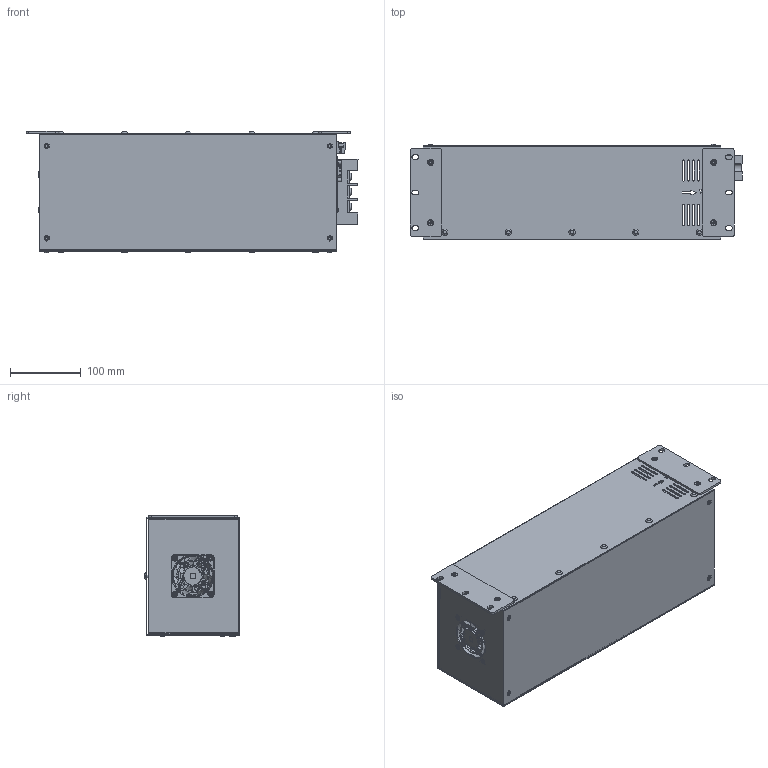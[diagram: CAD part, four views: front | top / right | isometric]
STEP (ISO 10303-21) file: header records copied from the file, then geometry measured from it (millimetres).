
FILE_DESCRIPTION(/* description */ (''),/* implementation_level */ '2;1');
FILE_NAME(/* name */ 'VX2COM_V.stp',/* time_stamp */ '2026-03-17T10:49:47+09:00',/* author */ ('jjang'),/* organization */ (''),/* preprocessor_version */ 'ST-DEVELOPER v20.1',/* originating_system */ 'Autodesk Inventor 2026',/* authorisation */ '');
FILE_SCHEMA (('AUTOMOTIVE_DESIGN { 1 0 10303 214 3 1 1 }'));
Products named in the file (1): VX2COM_2023.02(revision)_Simplify_1
Bounding box: 468 x 134.59 x 171.54 mm (x, y, z)
Volume: 540380.1 mm3; surface area: 677418.1 mm2
Topology: 7 solids, 7 shells, 3299 faces, 9860 edges, 6906 vertices
Faces by surface type: plane 1968, cylinder 750, bspline 456, torus 73, cone 39, sphere 13
Full cylindrical faces by diameter (mm): 0.609 x1, 0.61 x27, 0.635 x9, 0.9 x2, 1.397 x9, 2.286 x9, 2.8 x8, 2.957 x4, 3 x2, 3.048 x4, 3.2 x4, 3.6 x6, 3.783 x2, 3.8 x16, 3.9 x2, 4 x19, 4.3 x4, 4.5 x6, 5 x15, 5.3 x20, 5.4 x2, 5.429 x2, 5.6 x4, 6 x2, 6.082 x1, 7.5 x8, 8 x1, 8.8 x2, 9 x5, 10 x4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
Entity records: 130308 total; most frequent: CARTESIAN_POINT 39942, ORIENTED_EDGE 19702, DIRECTION 15545, EDGE_CURVE 9851, VERTEX_POINT 6906, LINE 5827, VECTOR 5827, AXIS2_PLACEMENT_3D 4859
